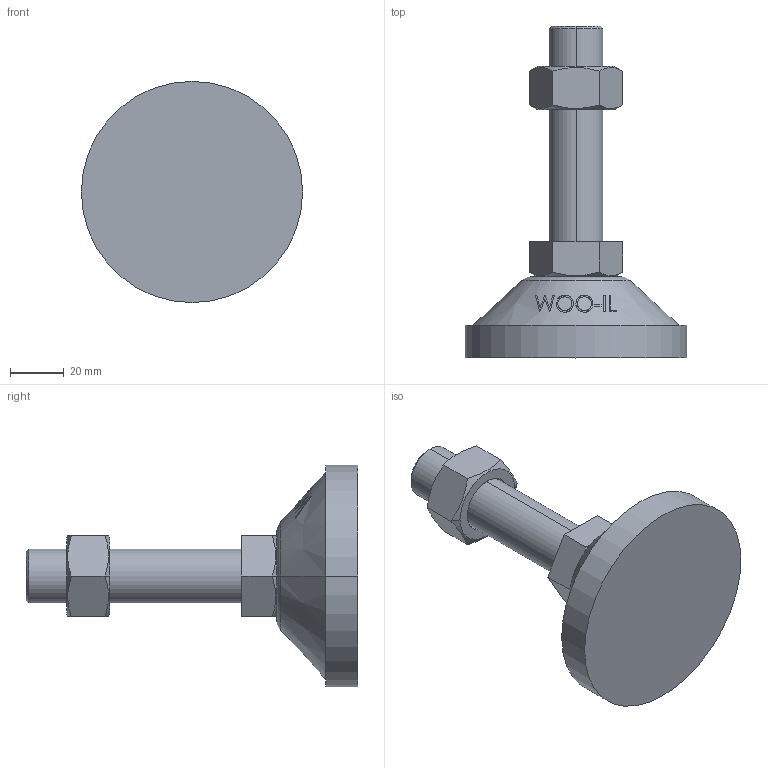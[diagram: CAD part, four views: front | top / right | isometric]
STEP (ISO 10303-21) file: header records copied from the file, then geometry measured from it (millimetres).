
FILE_DESCRIPTION (( 'STEP AP214' ), '1' );
FILE_NAME ('RL82-M20-80.step', '2021-01-06T08:19:11', ( '' ), ( '' ), 'SwSTEP 2.0', 'SolidWorks 2019', '' );
FILE_SCHEMA (( 'AUTOMOTIVE_DESIGN' ));
Length unit declared in the file: millimetre
Products named in the file (1): RL82-M20-80
Bounding box: 82 x 123 x 82 mm (x, y, z)
Volume: 153344.8 mm3; surface area: 26172.6 mm2
Topology: 3 solids, 3 shells, 93 faces, 217 edges, 140 vertices
Faces by surface type: plane 47, cone 22, bspline 16, cylinder 6, torus 2
Entity records: 4235 total; most frequent: CARTESIAN_POINT 2203, ORIENTED_EDGE 434, DIRECTION 349, EDGE_CURVE 217, VERTEX_POINT 140, AXIS2_PLACEMENT_3D 134, EDGE_LOOP 105, ADVANCED_FACE 93
